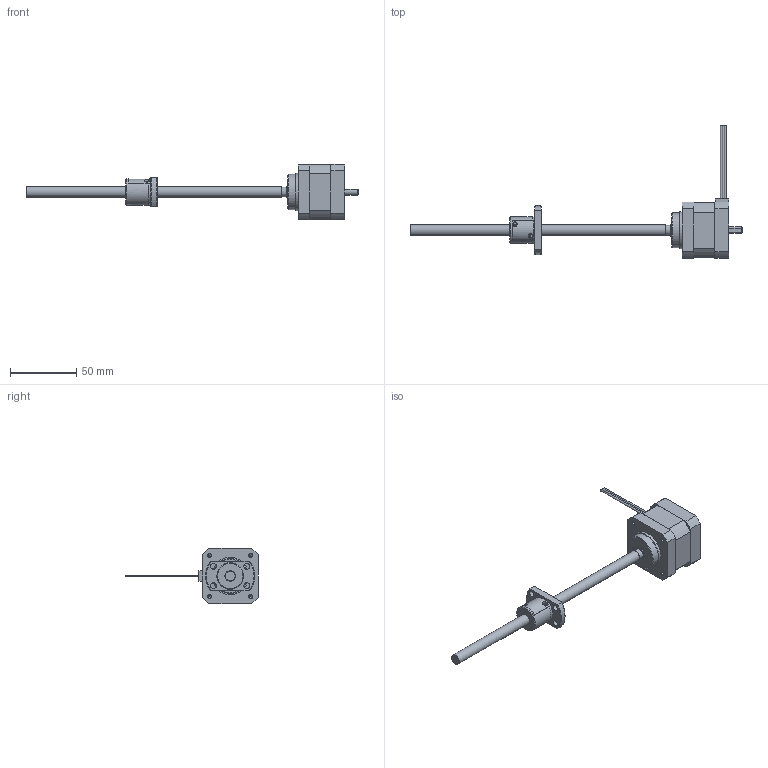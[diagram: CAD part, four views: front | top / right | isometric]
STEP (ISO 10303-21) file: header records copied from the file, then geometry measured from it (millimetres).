
FILE_DESCRIPTION( ( 'STEP AP214' ), ' ' );
FILE_NAME( 'p:/temp/worker_1/3260_1020/app_90_12017090514324327304333260eae72_000000_00_00_000000/format_0/2TMB0802(75).stp', '2017-09-05T12:32:43', ( '' ), ( '' ), ' ', 'PARTsolutions', ' ' );
FILE_SCHEMA( ( 'AUTOMOTIVE_DESIGN { 1 0 10303 214 1 1 1 1 }' ) );
Length unit declared in the file: millimetre
Products named in the file (3): 2TMB0802(75); _2TMB0802 (0)motor; _2TMB0802 (75)nut
Assembly tree (2 placements, depth 2):
  2TMB0802(75)
    _2TMB0802 (0)motor
    _2TMB0802 (75)nut
Bounding box: 250 x 99.5 x 42 mm (x, y, z)
Volume: 81933.5 mm3; surface area: 19714.5 mm2
Topology: 2 solids, 2 shells, 113 faces, 269 edges, 178 vertices
Faces by surface type: plane 56, cylinder 40, cone 17
Full cylindrical faces by diameter (mm): 1.5 x3, 2 x2, 2.459 x4, 2.5 x2, 3.5 x2, 4.5 x4, 7.3 x1, 8 x2, 19.7 x1, 20 x1, 26.5 x1, 28 x1
Entity records: 4061 total; most frequent: CARTESIAN_POINT 635, DIRECTION 537, ORIENTED_EDGE 430, AXIS2_PLACEMENT_3D 218, EDGE_CURVE 215, EDGE_LOOP 177, VERTEX_POINT 164, FACE_OUTER_BOUND 137
